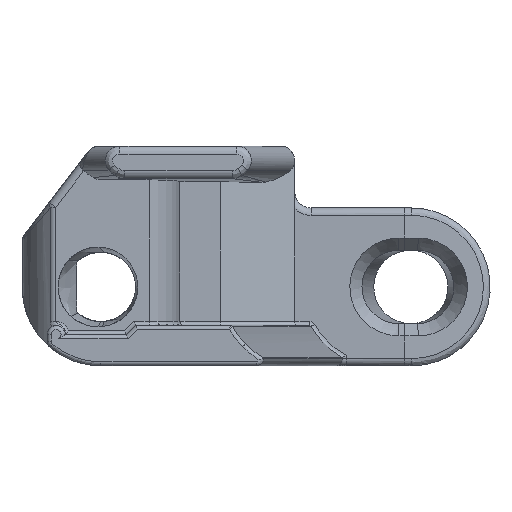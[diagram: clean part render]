
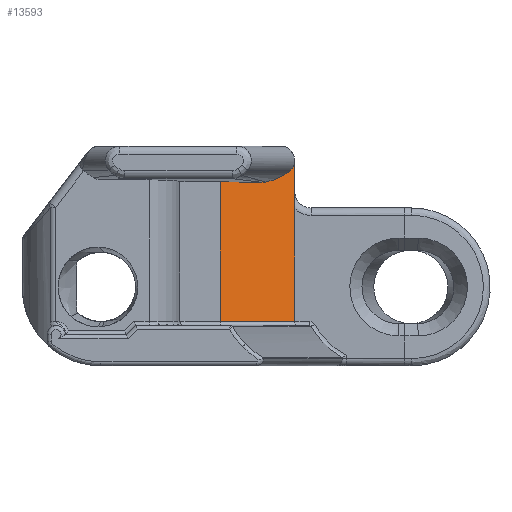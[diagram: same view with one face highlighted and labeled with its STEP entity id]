
A CAD part, front view. The second image highlights one B-rep face of the part: STEP entity #13593.
In plain terms, the highlighted planar face has unit normal (0.515, -0.857, 0).
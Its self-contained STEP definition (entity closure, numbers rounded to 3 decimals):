
#3228=CARTESIAN_POINT('',(4.75,-17.5,15.5));
#3300=DIRECTION('',(0.,0.,-1.));
#3301=VECTOR('',#3300,5.9);
#3302=CARTESIAN_POINT('',(4.75,-17.5,15.5));
#3303=LINE('',#3302,#3301);
#3307=DIRECTION('',(0.,0.,-1.));
#3308=VECTOR('',#3307,17.144);
#3309=CARTESIAN_POINT('',(-4.404,-23.,12.924));
#3310=LINE('',#3309,#3308);
#3314=DIRECTION('',(0.857,0.515,-0.013));
#3315=VECTOR('',#3314,5.977);
#3316=CARTESIAN_POINT('',(-4.404,-23.,12.924));
#3317=LINE('',#3316,#3315);
#3321=CARTESIAN_POINT('',(1.164,-19.654,12.877));
#3322=CARTESIAN_POINT('',(1.28,-19.585,12.897));
#3323=CARTESIAN_POINT('',(1.507,-19.448,12.942));
#3324=CARTESIAN_POINT('',(1.839,-19.249,13.026));
#3325=CARTESIAN_POINT('',(2.16,-19.056,13.125));
#3326=CARTESIAN_POINT('',(2.468,-18.871,13.239));
#3327=CARTESIAN_POINT('',(2.762,-18.695,13.364));
#3328=CARTESIAN_POINT('',(3.041,-18.527,13.501));
#3329=CARTESIAN_POINT('',(3.304,-18.369,13.648));
#3330=CARTESIAN_POINT('',(3.552,-18.22,13.804));
#3331=CARTESIAN_POINT('',(3.783,-18.081,13.966));
#3332=CARTESIAN_POINT('',(3.998,-17.952,14.135));
#3333=CARTESIAN_POINT('',(4.13,-17.872,14.25));
#3334=CARTESIAN_POINT('',(4.194,-17.834,14.309));
#3339=CARTESIAN_POINT('',(4.194,-17.834,14.309));
#3340=CARTESIAN_POINT('',(4.363,-17.732,14.464));
#3341=CARTESIAN_POINT('',(4.564,-17.612,14.727));
#3342=CARTESIAN_POINT('',(4.718,-17.519,15.141));
#3343=CARTESIAN_POINT('',(4.75,-17.5,15.374));
#3344=CARTESIAN_POINT('',(4.75,-17.5,15.5));
#3356=DIRECTION('',(0.,0.,-1.));
#3357=VECTOR('',#3356,13.82);
#3358=CARTESIAN_POINT('',(4.75,-17.5,9.6));
#3359=LINE('',#3358,#3357);
#8097=CARTESIAN_POINT('',(0.719,-19.922,
12.843));
#8098=CARTESIAN_POINT('',(0.77,-19.892,
12.843));
#8099=CARTESIAN_POINT('',(0.87,-19.831,
12.844));
#8100=CARTESIAN_POINT('',(1.019,-19.742,12.856));
#8101=CARTESIAN_POINT('',(1.116,-19.683,12.869));
#8102=CARTESIAN_POINT('',(1.164,-19.654,12.877));
#8209=DIRECTION('',(0.857,0.515,0.));
#8210=VECTOR('',#8209,10.679);
#8211=CARTESIAN_POINT('',(-4.404,-23.,-4.22));
#8212=LINE('',#8211,#8210);
#9324=CARTESIAN_POINT('',(-4.404,-23.,-4.22));
#9325=CARTESIAN_POINT('',(4.75,-17.5,-4.22));
#9326=VERTEX_POINT('',#9324);
#9327=VERTEX_POINT('',#9325);
#9352=CARTESIAN_POINT('',(4.75,-17.5,9.6));
#9353=VERTEX_POINT('',#9352);
#9377=VERTEX_POINT('',#3228);
#9517=CARTESIAN_POINT('',(-4.404,-23.,12.924));
#9519=VERTEX_POINT('',#9517);
#9522=VERTEX_POINT('',#3339);
#9527=VERTEX_POINT('',#3321);
#9528=CARTESIAN_POINT('',(0.719,-19.922,
12.843));
#9529=VERTEX_POINT('',#9528);
#13572=CARTESIAN_POINT('',(-4.404,-23.,20.));
#13573=DIRECTION('',(0.515,-0.857,0.));
#13574=DIRECTION('',(0.857,0.515,0.));
#13575=AXIS2_PLACEMENT_3D('',#13572,#13573,#13574);
#13576=PLANE('',#13575);
#13578=ORIENTED_EDGE('',*,*,#13577,.T.);
#13580=ORIENTED_EDGE('',*,*,#13579,.F.);
#13582=ORIENTED_EDGE('',*,*,#13581,.F.);
#13584=ORIENTED_EDGE('',*,*,#13583,.T.);
#13586=ORIENTED_EDGE('',*,*,#13585,.T.);
#13588=ORIENTED_EDGE('',*,*,#13587,.T.);
#13589=ORIENTED_EDGE('',*,*,#13506,.T.);
#13590=ORIENTED_EDGE('',*,*,#13561,.T.);
#13591=EDGE_LOOP('',(#13578,#13580,#13582,#13584,#13586,#13588,#13589,#13590));
#13592=FACE_OUTER_BOUND('',#13591,.F.);
#3335=B_SPLINE_CURVE_WITH_KNOTS('',3,(#3321,#3322,#3323,#3324,#3325,#3326,#3327,
#3328,#3329,#3330,#3331,#3332,#3333,#3334),.UNSPECIFIED.,.F.,.F.,(4,1,1,1,1,1,1,
1,1,1,1,4),(0.,0.091,0.182,0.273,
0.364,0.455,0.545,0.636,
0.727,0.818,0.909,1.),.UNSPECIFIED.);
#3345=B_SPLINE_CURVE_WITH_KNOTS('',3,(#3339,#3340,#3341,#3342,#3343,#3344),
.UNSPECIFIED.,.F.,.F.,(4,1,1,4),(0.,0.5,0.75,1.),.UNSPECIFIED.);
#8103=B_SPLINE_CURVE_WITH_KNOTS('',3,(#8097,#8098,#8099,#8100,#8101,#8102),
.UNSPECIFIED.,.F.,.F.,(4,1,1,4),(0.,0.333,0.667,1.),
.UNSPECIFIED.);
#13506=EDGE_CURVE('',#9522,#9377,#3345,.T.);
#13561=EDGE_CURVE('',#9377,#9353,#3303,.T.);
#13577=EDGE_CURVE('',#9353,#9327,#3359,.T.);
#13579=EDGE_CURVE('',#9326,#9327,#8212,.T.);
#13581=EDGE_CURVE('',#9519,#9326,#3310,.T.);
#13583=EDGE_CURVE('',#9519,#9529,#3317,.T.);
#13585=EDGE_CURVE('',#9529,#9527,#8103,.T.);
#13587=EDGE_CURVE('',#9527,#9522,#3335,.T.);
#13593=ADVANCED_FACE('',(#13592),#13576,.T.);
